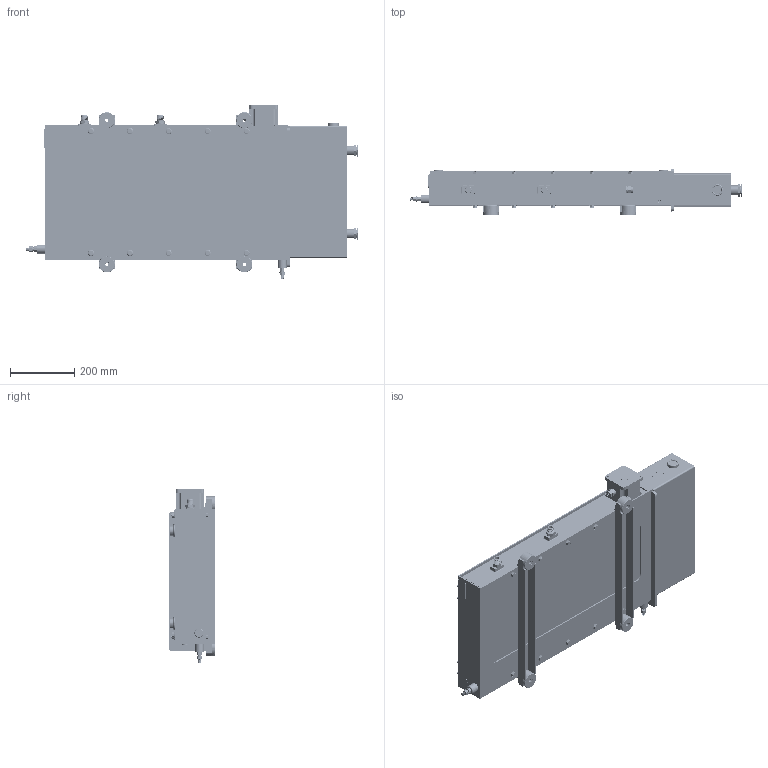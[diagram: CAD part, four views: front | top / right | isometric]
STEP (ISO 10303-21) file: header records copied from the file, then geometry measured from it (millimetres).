
FILE_DESCRIPTION (( 'STEP AP214' ), '1' );
FILE_NAME ('ﾐﾑﾌﾊ-1ﾂ IP65 .STEP', '2024-04-03T11:34:51', ( '' ), ( '' ), 'SwSTEP 2.0', 'SolidWorks 2020', '' );
FILE_SCHEMA (( 'AUTOMOTIVE_DESIGN' ));
Length unit declared in the file: millimetre
Products named in the file (1): ﾐﾑﾌﾊ-1ﾂ IP65 
Bounding box: 1035.56 x 145 x 541.99 mm (x, y, z)
Volume: 36359011.8 mm3; surface area: 2694781.1 mm2
Topology: 93 solids, 161 shells, 5012 faces, 12254 edges, 7769 vertices
Faces by surface type: plane 2272, cylinder 1899, cone 344, torus 336, bspline 121, sphere 40
Entity records: 262382 total; most frequent: CARTESIAN_POINT 94038, ORIENTED_EDGE 24396, DIRECTION 23584, EDGE_CURVE 12198, AXIS2_PLACEMENT_3D 8604, VERTEX_POINT 7769, VECTOR 6376, LINE 6376
